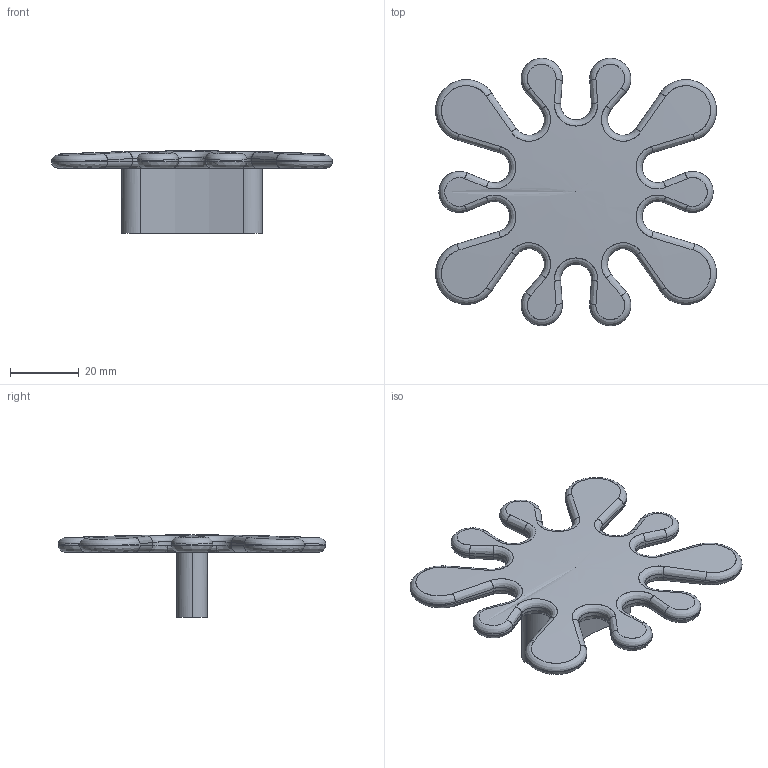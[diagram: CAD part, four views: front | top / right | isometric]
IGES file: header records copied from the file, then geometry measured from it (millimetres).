
Start section: C
Global section: file name: 8200.igs; native system: By Siemens PLM Incorporated; preprocessor: XPlus GENERIC/IGES 16.0.42; author: Author; organization: Title; date: 20231116.112158; units: millimetre
Bounding box: 82 x 77.99 x 24 mm (x, y, z)
Surface area: 12655.9 mm2 (no closed solid volume)
Topology: 0 solids, 0 shells, 167 faces, 849 edges, 848 vertices
Faces by surface type: bspline 167
